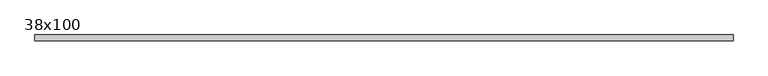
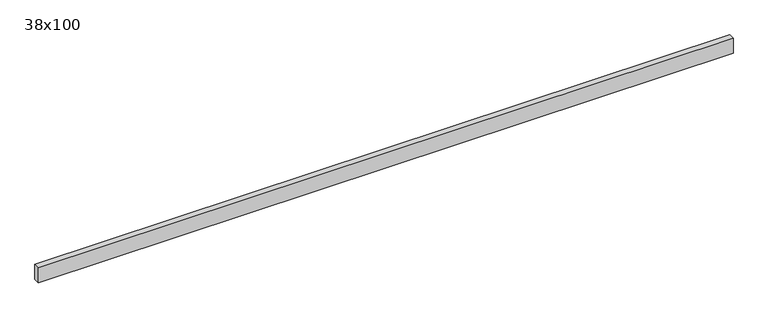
"""IFC4 building model written with IfcOpenShell, lengths in millimetres: beam geometry, Poutre - Bois de construction de dimensions courantes : 38x100."""

from ifc_helpers import new_model, si_unit, frame, origin, place, context, project, spatial, polyline, outline, extrude, source, transform, mapped, element, save


def beam_38x100_aa13c8e7(model_context):
    return source(origin(), model_context, "Body", "SweptSolid", [
        extrude(outline(polyline([(2109.5, 19.05), (2109.5, -19.05), (-2269.5, -19.05), (-2269.5, 19.05), (2109.5, 19.05)])), frame((0.0, 0.0, -50.0), z_axis=(0.0, 0.0, 1.0), x_axis=(1.0, 0.0, 0.0)), (0.0, 0.0, 1.0), 100.0),
    ])


if __name__ == "__main__":
    model = new_model("IFC4")
    model_context = context("Model", 3, world=origin())
    ifc_project = project(units=[si_unit("LENGTHUNIT", "METRE", prefix="MILLI")], contexts=[model_context])
    site = spatial("IfcSite", under=ifc_project)
    building = spatial("IfcBuilding", under=site)
    placement = place(None, origin())
    beam_38x100_shape = beam_38x100_aa13c8e7(model_context)
    element("IfcBeam", 1, ObjectType="Poutre - Bois de construction de dimensions courantes : 38x100", at=placement, inside=building, context=model_context, shape_type="MappedRepresentation", body=[
        mapped(beam_38x100_shape, transform((0.0, 0.0, 0.0), x_axis=(1.0, 0.0, 0.0), y_axis=(0.0, 1.0, 0.0), z_axis=(0.0, 0.0, 1.0))),
    ])
    save(model, "model.ifc")
